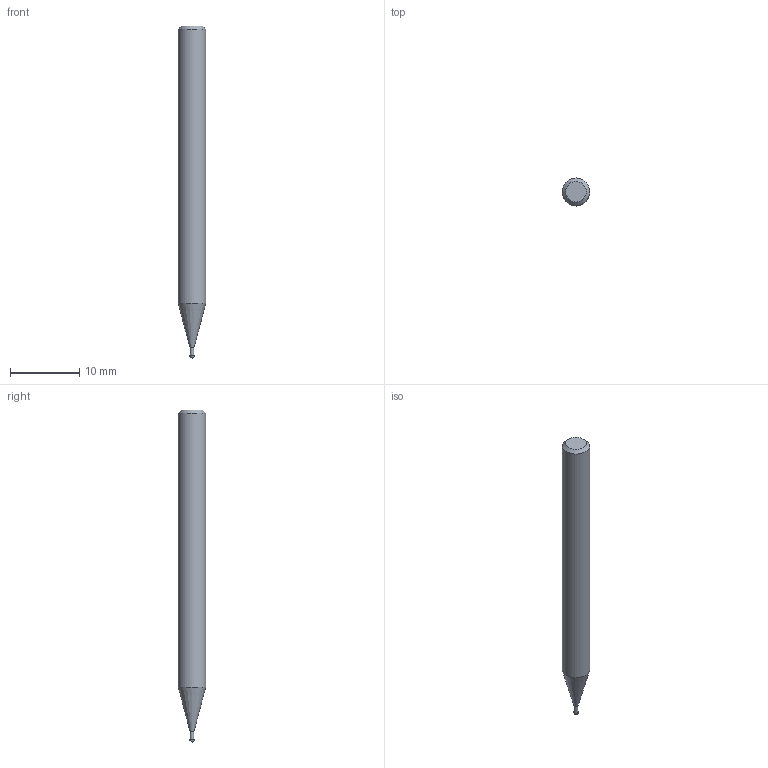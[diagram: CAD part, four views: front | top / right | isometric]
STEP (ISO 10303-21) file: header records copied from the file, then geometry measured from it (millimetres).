
FILE_DESCRIPTION((''),'2;1');
FILE_NAME('C:\Users\nsx150\AppData\Local\Temp\Mastercam 2021\ZQ9VQTH2U1\TEMP.step','2021-10-21T11:06:18',(''),(''),'STEP Write','Mastercam 2021 ... CNC Software, Inc.','');
FILE_SCHEMA(('AUTOMOTIVE_DESIGN'));
Length unit declared in the file: millimetre
Products named in the file (1): None
Bounding box: 4 x 4 x 48 mm (x, y, z)
Volume: 533.8 mm3; surface area: 563.1 mm2
Topology: 2 solids, 2 shells, 9 faces, 14 edges, 8 vertices
Faces by surface type: plane 3, cylinder 3, cone 2, sphere 1
Full cylindrical faces by diameter (mm): 0.56 x1, 0.6 x1, 4 x1
Entity records: 211 total; most frequent: DIRECTION 36, CARTESIAN_POINT 25, AXIS2_PLACEMENT_3D 18, ORIENTED_EDGE 14, EDGE_LOOP 14, STYLED_ITEM 12, ADVANCED_FACE 9, FACE_BOUND 8
